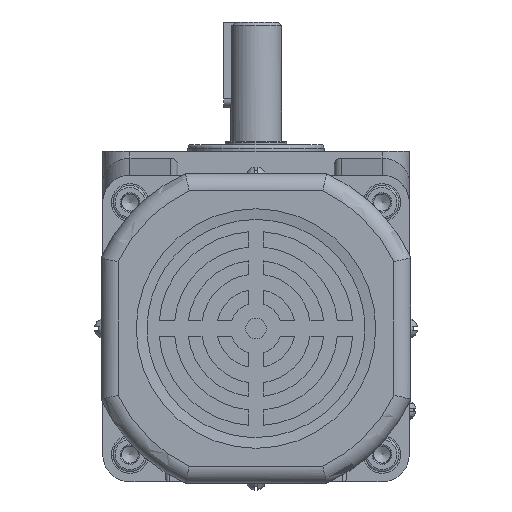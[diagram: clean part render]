
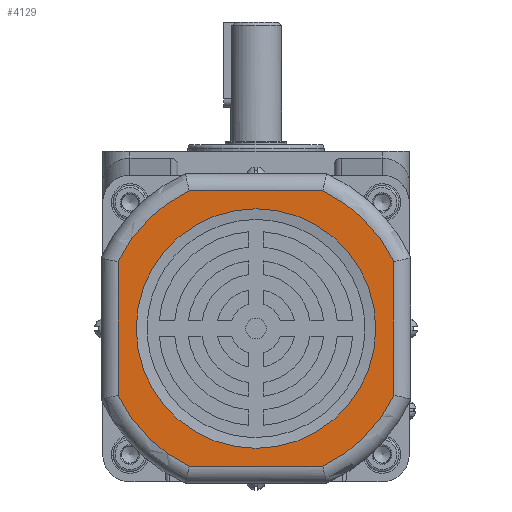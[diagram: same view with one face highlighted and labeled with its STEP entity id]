
A CAD part, front view. The second image highlights one B-rep face of the part: STEP entity #4129.
In plain terms, the highlighted planar face has unit normal (0, -1, 0).
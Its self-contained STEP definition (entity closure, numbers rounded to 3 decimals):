
#785=LINE('',#18495,#1634);
#788=LINE('',#18499,#1637);
#790=LINE('',#18502,#1639);
#792=LINE('',#18505,#1641);
#1634=VECTOR('',#14878,1.);
#1637=VECTOR('',#14883,1.);
#1639=VECTOR('',#14887,1.);
#1641=VECTOR('',#14891,1.);
#4129=ADVANCED_FACE('',(#5292,#5293),#4870,.F.);
#4870=PLANE('',#13452);
#5292=FACE_BOUND('',#5640,.T.);
#5293=FACE_BOUND('',#5641,.T.);
#5640=EDGE_LOOP('',(#6665,#6666,#6667,#6668,#6669,#6670,#6671,#6672));
#5641=EDGE_LOOP('',(#6673));
#6665=ORIENTED_EDGE('',*,*,#11007,.T.);
#6666=ORIENTED_EDGE('',*,*,#10997,.T.);
#6667=ORIENTED_EDGE('',*,*,#11000,.T.);
#6668=ORIENTED_EDGE('',*,*,#10985,.T.);
#6669=ORIENTED_EDGE('',*,*,#11003,.T.);
#6670=ORIENTED_EDGE('',*,*,#10989,.T.);
#6671=ORIENTED_EDGE('',*,*,#11005,.T.);
#6672=ORIENTED_EDGE('',*,*,#10993,.T.);
#6673=ORIENTED_EDGE('',*,*,#11008,.F.);
#9883=VERTEX_POINT('',#18383);
#9885=VERTEX_POINT('',#18386);
#9887=VERTEX_POINT('',#18414);
#9889=VERTEX_POINT('',#18417);
#9891=VERTEX_POINT('',#18445);
#9893=VERTEX_POINT('',#18448);
#9895=VERTEX_POINT('',#18476);
#9897=VERTEX_POINT('',#18479);
#9899=VERTEX_POINT('',#18508);
#10985=EDGE_CURVE('',#9885,#9883,#12640,.T.);
#10989=EDGE_CURVE('',#9889,#9887,#12642,.T.);
#10993=EDGE_CURVE('',#9893,#9891,#12644,.T.);
#10997=EDGE_CURVE('',#9897,#9895,#12646,.T.);
#11000=EDGE_CURVE('',#9895,#9885,#785,.T.);
#11003=EDGE_CURVE('',#9883,#9889,#788,.T.);
#11005=EDGE_CURVE('',#9887,#9893,#790,.T.);
#11007=EDGE_CURVE('',#9891,#9897,#792,.T.);
#11008=EDGE_CURVE('',#9899,#9899,#12648,.T.);
#12640=CIRCLE('',#13435,45.);
#12642=CIRCLE('',#13438,45.);
#12644=CIRCLE('',#13441,45.);
#12646=CIRCLE('',#13444,45.);
#12648=CIRCLE('',#13451,35.157);
#13435=AXIS2_PLACEMENT_3D('',#18385,#14854,#14855);
#13438=AXIS2_PLACEMENT_3D('',#18416,#14860,#14861);
#13441=AXIS2_PLACEMENT_3D('',#18447,#14866,#14867);
#13444=AXIS2_PLACEMENT_3D('',#18478,#14872,#14873);
#13451=AXIS2_PLACEMENT_3D('',#18507,#14894,#14895);
#13452=AXIS2_PLACEMENT_3D('',#18509,#14896,#14897);
#14854=DIRECTION('',(0.,-1.,0.));
#14855=DIRECTION('',(0.,0.,1.));
#14860=DIRECTION('',(0.,-1.,0.));
#14861=DIRECTION('',(0.,0.,1.));
#14866=DIRECTION('',(0.,-1.,0.));
#14867=DIRECTION('',(0.,0.,1.));
#14872=DIRECTION('',(0.,-1.,0.));
#14873=DIRECTION('',(0.,0.,1.));
#14878=DIRECTION('',(0.,0.,1.));
#14883=DIRECTION('',(-1.,0.,0.));
#14887=DIRECTION('',(0.,0.,-1.));
#14891=DIRECTION('',(1.,0.,0.));
#14894=DIRECTION('',(0.,-1.,0.));
#14895=DIRECTION('',(0.,0.,-1.));
#14896=DIRECTION('',(0.,1.,0.));
#14897=DIRECTION('',(0.,0.,1.));
#18383=CARTESIAN_POINT('',(19.615,-283.,-11.5));
#18385=CARTESIAN_POINT('',(0.,-283.,-52.));
#18386=CARTESIAN_POINT('',(40.5,-283.,-32.385));
#18414=CARTESIAN_POINT('',(-40.5,-283.,-32.385));
#18416=CARTESIAN_POINT('',(0.,-283.,-52.));
#18417=CARTESIAN_POINT('',(-19.615,-283.,-11.5));
#18445=CARTESIAN_POINT('',(-19.615,-283.,-92.5));
#18447=CARTESIAN_POINT('',(0.,-283.,-52.));
#18448=CARTESIAN_POINT('',(-40.5,-283.,-71.615));
#18476=CARTESIAN_POINT('',(40.5,-283.,-71.615));
#18478=CARTESIAN_POINT('',(0.,-283.,-52.));
#18479=CARTESIAN_POINT('',(19.615,-283.,-92.5));
#18495=CARTESIAN_POINT('',(40.5,-283.,-31.27));
#18499=CARTESIAN_POINT('',(-20.73,-283.,-11.5));
#18502=CARTESIAN_POINT('',(-40.5,-283.,-72.73));
#18505=CARTESIAN_POINT('',(20.73,-283.,-92.5));
#18507=CARTESIAN_POINT('',(0.,-283.,-52.));
#18508=CARTESIAN_POINT('',(0.,-283.,-87.157));
#18509=CARTESIAN_POINT('',(45.457,-283.,-52.));
